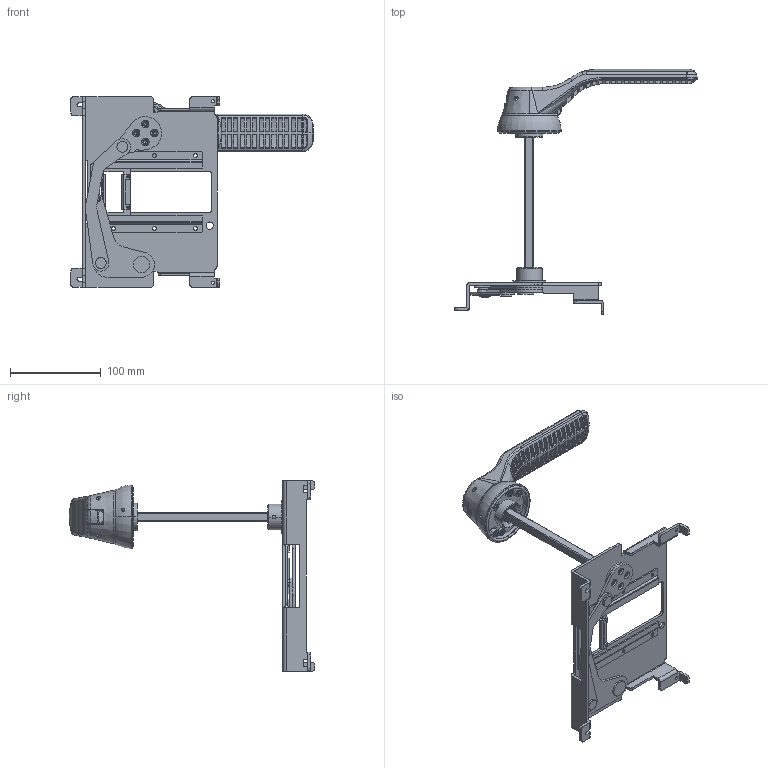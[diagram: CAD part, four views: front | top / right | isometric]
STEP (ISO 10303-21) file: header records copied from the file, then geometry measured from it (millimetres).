
FILE_DESCRIPTION (( 'STEP AP203' ), '1' );
FILE_NAME ('1600-CS2-A-200.STEP', '2024-10-21T08:09:36', ( 'A' ), ( '' ), 'SwSTEP 2.0', 'SolidWorks 2018', '' );
FILE_SCHEMA (( 'CONFIG_CONTROL_DESIGN' ));
Products named in the file (3): 1600-cs2-200; 1600-CS2-A-200; CS2-1600
Assembly tree (2 placements, depth 2):
  1600-CS2-A-200
    CS2-1600
    1600-cs2-200
Bounding box: 266.88 x 270.3 x 210 mm (x, y, z)
Volume: 340917.2 mm3; surface area: 220908.5 mm2
Topology: 50 solids, 50 shells, 4845 faces, 13201 edges, 8471 vertices
Faces by surface type: plane 2400, cylinder 1739, torus 346, bspline 144, cone 125, sphere 91
Entity records: 169971 total; most frequent: CARTESIAN_POINT 45551, DIRECTION 26231, ORIENTED_EDGE 26178, EDGE_CURVE 13089, AXIS2_PLACEMENT_3D 9022, VERTEX_POINT 8456, VECTOR 8187, LINE 8187
